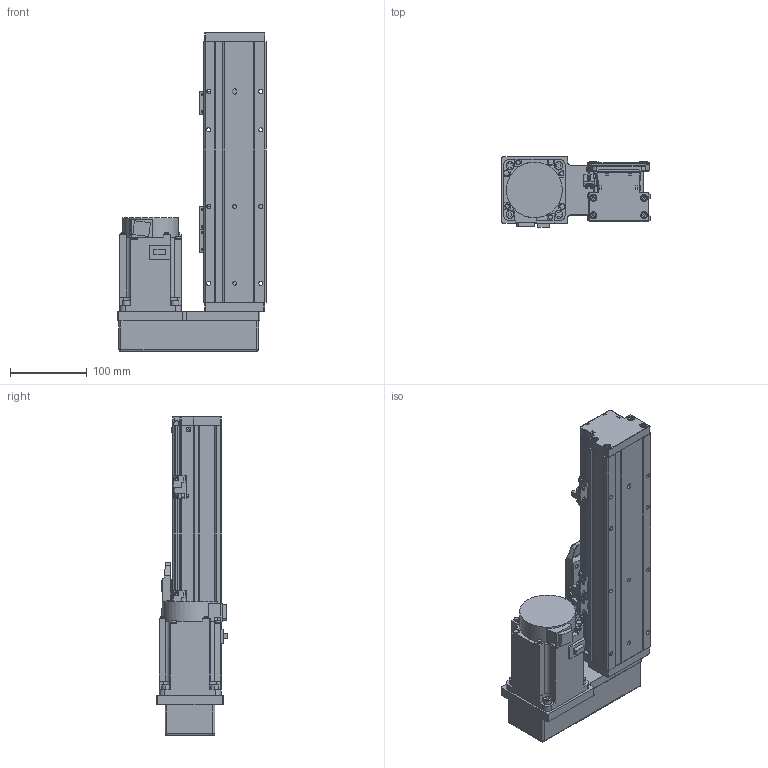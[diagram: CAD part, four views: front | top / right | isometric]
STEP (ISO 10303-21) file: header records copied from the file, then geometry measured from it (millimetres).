
FILE_DESCRIPTION (( 'STEP AP203' ), '1' );
FILE_NAME ('GTH8-150-BL-M75-C4.step', '2023-02-14T02:23:27', ( '微软用户' ), ( '微软中国' ), 'SwSTEP 2.0', 'SolidWorks 2020', '' );
FILE_SCHEMA (( 'CONFIG_CONTROL_DESIGN' ));
Length unit declared in the file: millimetre
Products named in the file (18): GTH8-150-BL-M75-C4; GTH80-013; GTH50-023; GBT 70.3-M3℅6; GBT96.1-2002 3×0.8; GTH80-022; BTH-M3X5X6; GTH80-001_150; GBT 70.1-M3℅6; CTHA86-015-3_CTHA86-015-4; GTH80-003; GBT 70.1-M4×16; CTHA86-035; GTH80-004; GTH80-028; hg-kn73j_-s100; GTH80-006; GTH50-024
Assembly tree (57 placements, depth 2):
  GTH8-150-BL-M75-C4
    GTH80-001_150
    GTH80-003
    GTH80-004
    GTH80-006
    GTH80-013
    GBT 70.3-M3℅6  x4
    GTH80-022
    GBT 70.1-M3℅6  x14
    GBT 70.1-M4×16  x8
    GTH80-028  x2
    GTH50-024  x3
    GTH50-023  x3
    GBT96.1-2002 3×0.8  x6
    BTH-M3X5X6  x8
    CTHA86-015-3_CTHA86-015-4
    CTHA86-035
    hg-kn73j_-s100
Bounding box: 193.5 x 92.3 x 416 mm (x, y, z)
Volume: 3020303.1 mm3; surface area: 355202.3 mm2
Topology: 59 solids, 59 shells, 2179 faces, 5046 edges, 3088 vertices
Faces by surface type: plane 1153, cylinder 611, cone 243, torus 158, sphere 12, bspline 2
Entity records: 38996 total; most frequent: CARTESIAN_POINT 6551, DIRECTION 6417, ORIENTED_EDGE 5902, EDGE_CURVE 2951, AXIS2_PLACEMENT_3D 2254, LINE 1909, VECTOR 1909, VERTEX_POINT 1863
